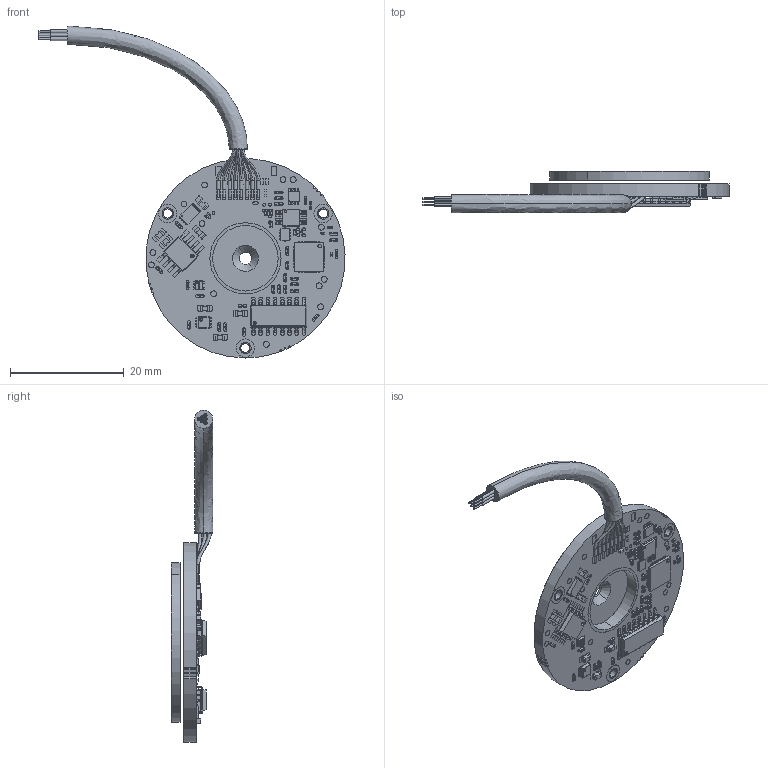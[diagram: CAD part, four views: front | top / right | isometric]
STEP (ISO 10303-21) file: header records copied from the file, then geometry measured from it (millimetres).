
FILE_DESCRIPTION (( 'STEP AP214' ), '1' );
FILE_NAME ('VLP-35 16-15 Endshaft rotor.STEP', '2025-03-23T13:20:24', ( '' ), ( '' ), 'SwSTEP 2.0', 'SolidWorks 2022', '' );
FILE_SCHEMA (( 'AUTOMOTIVE_DESIGN' ));
Length unit declared in the file: millimetre
Products named in the file (6): PB-00142-00-STP_Without connector; VLP-35 cable_Flying leads; PB-00183_Fine 16 Coarse 15; PB-00142_F 16 C 15; EA-00142_Without connector; VLP-35 16-15 Endshaft rotor
Assembly tree (5 placements, depth 3):
  VLP-35 16-15 Endshaft rotor
    EA-00142_Without connector
      PB-00142_F 16 C 15
      PB-00142-00-STP_Without connector
    VLP-35 cable_Flying leads
    PB-00183_Fine 16 Coarse 15
Bounding box: 53.74 x 7.33 x 58.3 mm (x, y, z)
Volume: 3178.7 mm3; surface area: 4712.3 mm2
Topology: 28 solids, 275 shells, 7083 faces, 17298 edges, 11260 vertices
Faces by surface type: plane 4521, cylinder 1235, bspline 1189, sphere 132, torus 4, cone 2
Entity records: 349878 total; most frequent: CARTESIAN_POINT 110338, ORIENTED_EDGE 34308, DIRECTION 29120, EDGE_CURVE 17170, VECTOR 12264, LINE 12264, VERTEX_POINT 11260, AXIS2_PLACEMENT_3D 8428
